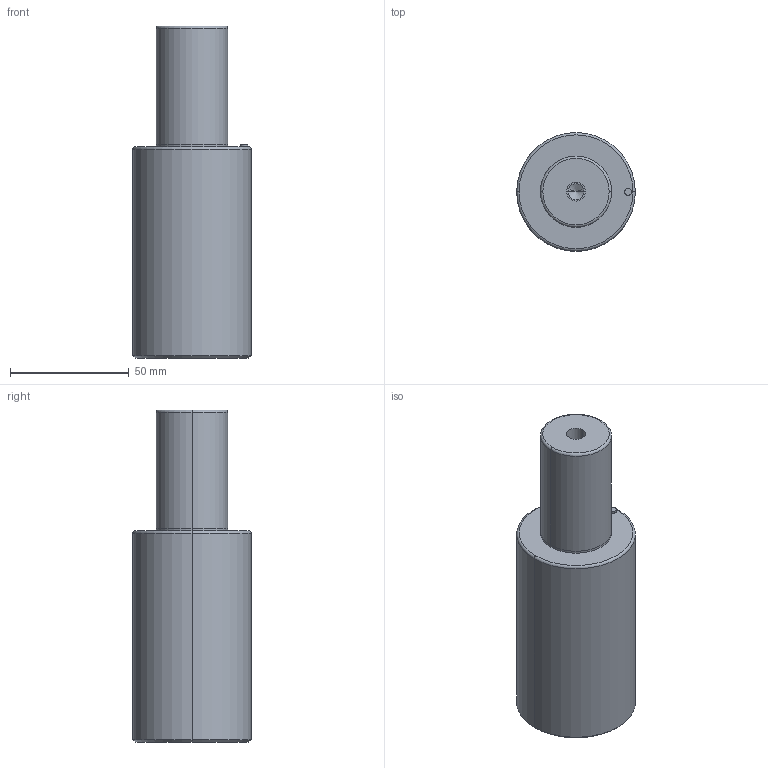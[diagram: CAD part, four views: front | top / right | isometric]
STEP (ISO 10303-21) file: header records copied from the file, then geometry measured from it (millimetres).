
FILE_DESCRIPTION(/* description */ (''),/* implementation_level */ '2;1');
FILE_NAME(/* name */ '3d_gsc50-50_03819_r00.stp',/* time_stamp */ '2011-01-10T14:15:21+09:00',/* author */ ('MISUMI'),/* organization */ (''),/* preprocessor_version */ 'ST-DEVELOPER v11',/* originating_system */ 'UGS - NX 5.0',/* authorisation */ '');
FILE_SCHEMA (('CONFIG_CONTROL_DESIGN'));
Length unit declared in the file: millimetre
Products named in the file (1): 3d_gsc50-50_03819_r00
Bounding box: 50 x 50 x 140 mm (x, y, z)
Volume: 208689 mm3; surface area: 23406.3 mm2
Topology: 1 solids, 1 shells, 32 faces, 66 edges, 38 vertices
Faces by surface type: cylinder 16, cone 6, plane 6, torus 4
Entity records: 912 total; most frequent: DIRECTION 168, CARTESIAN_POINT 133, ORIENTED_EDGE 124, AXIS2_PLACEMENT_3D 73, EDGE_CURVE 62, CIRCLE 40, EDGE_LOOP 38, VERTEX_POINT 38
